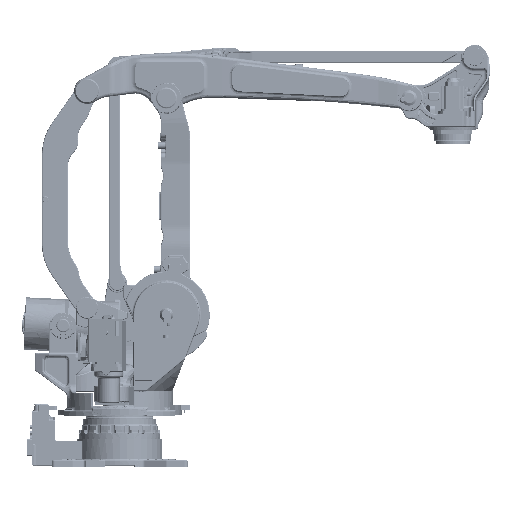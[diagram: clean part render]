
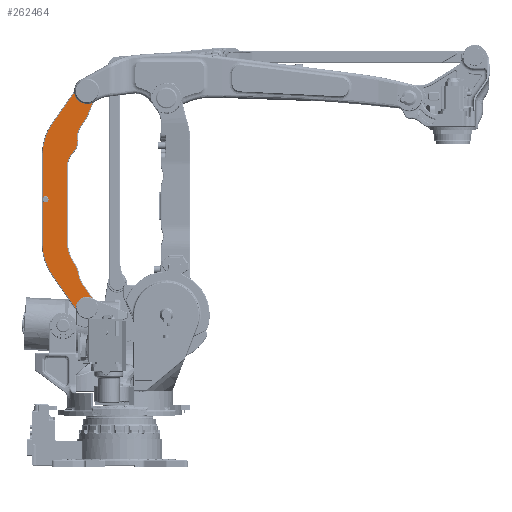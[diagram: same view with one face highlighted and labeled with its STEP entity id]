
A CAD part, front view. The second image highlights one B-rep face of the part: STEP entity #262464.
In plain terms, the highlighted planar face has unit normal (0, -1, 0).
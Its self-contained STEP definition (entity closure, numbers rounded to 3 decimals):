
#259900=CARTESIAN_POINT('',(-138.25,-113.5,1805.637));
#259901=DIRECTION('',(0.,-1.,0.));
#259902=DIRECTION('',(-0.819,0.,0.574));
#259903=AXIS2_PLACEMENT_3D('',#259900,#259901,#259902);
#259908=DIRECTION('',(-0.574,0.,-0.819));
#259909=VECTOR('',#259908,237.139);
#259910=CARTESIAN_POINT('',(-252.074,-113.5,2174.831));
#259911=LINE('',#259910,#259909);
#259915=CARTESIAN_POINT('',(-188.25,-113.5,2170.092));
#259916=DIRECTION('',(0.,1.,0.));
#259917=DIRECTION('',(0.599,0.,-0.801));
#259918=AXIS2_PLACEMENT_3D('',#259915,#259916,#259917);
#259923=DIRECTION('',(0.382,0.,0.924));
#259924=VECTOR('',#259923,101.291);
#259925=CARTESIAN_POINT('',(-188.676,-113.5,2025.228));
#259926=LINE('',#259925,#259924);
#259930=CARTESIAN_POINT('',(-276.456,-113.5,2061.554));
#259931=DIRECTION('',(0.,-1.,0.));
#259932=DIRECTION('',(0.819,0.,-0.574));
#259933=AXIS2_PLACEMENT_3D('',#259930,#259931,#259932);
#259938=DIRECTION('',(0.574,0.,0.819));
#259939=VECTOR('',#259938,47.393);
#259940=CARTESIAN_POINT('',(-225.82,-113.5,1968.243));
#259941=LINE('',#259940,#259939);
#259945=CARTESIAN_POINT('',(-139.809,-113.5,1908.017));
#259946=DIRECTION('',(0.,1.,0.));
#259947=DIRECTION('',(-0.992,0.,-0.125));
#259948=AXIS2_PLACEMENT_3D('',#259945,#259946,#259947);
#259953=CARTESIAN_POINT('',(-338.25,-113.5,1883.092));
#259954=DIRECTION('',(0.,-1.,0.));
#259955=DIRECTION('',(1.,0.,0.));
#259956=AXIS2_PLACEMENT_3D('',#259953,#259954,#259955);
#259961=CARTESIAN_POINT('',(-338.25,-113.5,1883.092));
#259962=DIRECTION('',(0.,-1.,0.));
#259963=DIRECTION('',(0.7,0.,-0.714));
#259964=AXIS2_PLACEMENT_3D('',#259961,#259962,#259963);
#259969=CARTESIAN_POINT('',(-198.25,-113.5,1740.263));
#259970=DIRECTION('',(0.,1.,0.));
#259971=DIRECTION('',(-1.,0.,0.));
#259972=AXIS2_PLACEMENT_3D('',#259969,#259970,#259971);
#259977=CARTESIAN_POINT('',(-98.25,-113.5,1297.158));
#259978=DIRECTION('',(0.,1.,0.));
#259979=DIRECTION('',(-0.819,0.,-0.574));
#259980=AXIS2_PLACEMENT_3D('',#259977,#259978,#259979);
#259985=DIRECTION('',(-0.574,0.,0.819));
#259986=VECTOR('',#259985,12.994);
#259987=CARTESIAN_POINT('',(-258.722,-113.5,1168.93));
#259988=LINE('',#259987,#259986);
#259992=CARTESIAN_POINT('',(-336.542,-113.5,1114.441));
#259993=DIRECTION('',(0.,-1.,0.));
#259994=DIRECTION('',(0.974,0.,0.228));
#259995=AXIS2_PLACEMENT_3D('',#259992,#259993,#259994);
#260000=DIRECTION('',(-0.228,0.,0.974));
#260001=VECTOR('',#260000,42.261);
#260002=CARTESIAN_POINT('',(-234.402,-113.5,1094.987));
#260003=LINE('',#260002,#260001);
#260007=CARTESIAN_POINT('',(-132.176,-113.5,1118.961));
#260008=DIRECTION('',(0.,1.,0.));
#260009=DIRECTION('',(-0.819,0.,-0.574));
#260010=AXIS2_PLACEMENT_3D('',#260007,#260008,#260009);
#260015=DIRECTION('',(-0.574,0.,0.819));
#260016=VECTOR('',#260015,98.016);
#260017=CARTESIAN_POINT('',(-161.967,-113.5,978.446));
#260018=LINE('',#260017,#260016);
#260022=CARTESIAN_POINT('',(-188.25,-113.5,920.092));
#260023=DIRECTION('',(0.,1.,0.));
#260024=DIRECTION('',(-0.997,0.,-0.074));
#260025=AXIS2_PLACEMENT_3D('',#260022,#260023,#260024);
#260030=DIRECTION('',(0.574,0.,-0.819));
#260031=VECTOR('',#260030,237.139);
#260032=CARTESIAN_POINT('',(-388.091,-113.5,1109.605));
#260033=LINE('',#260032,#260031);
#260037=CARTESIAN_POINT('',(-138.25,-113.5,1284.546));
#260038=DIRECTION('',(0.,-1.,0.));
#260039=DIRECTION('',(-1.,0.,0.));
#260040=AXIS2_PLACEMENT_3D('',#260037,#260038,#260039);
#260045=CARTESIAN_POINT('',(-428.25,-113.5,1545.092));
#260046=DIRECTION('',(0.,1.,0.));
#260047=DIRECTION('',(1.,0.,0.));
#260048=AXIS2_PLACEMENT_3D('',#260045,#260046,#260047);
#260053=CARTESIAN_POINT('',(-428.25,-113.5,1545.092));
#260054=DIRECTION('',(0.,1.,0.));
#260055=DIRECTION('',(-0.833,0.,0.553));
#260056=AXIS2_PLACEMENT_3D('',#260053,#260054,#260055);
#260061=DIRECTION('',(0.,0.,1.));
#260062=VECTOR('',#260061,250.596);
#260063=CARTESIAN_POINT('',(-443.25,-113.5,1284.546));
#260064=LINE('',#260063,#260062);
#260075=DIRECTION('',(0.,0.,1.));
#260076=VECTOR('',#260075,250.596);
#260077=CARTESIAN_POINT('',(-443.25,-113.5,1555.042));
#260078=LINE('',#260077,#260076);
#260907=DIRECTION('',(0.,0.,-1.));
#260908=VECTOR('',#260907,443.105);
#260909=CARTESIAN_POINT('',(-303.25,-113.5,1740.263));
#260910=LINE('',#260909,#260908);
#261718=CARTESIAN_POINT('',(-443.25,-113.5,1535.142));
#261720=VERTEX_POINT('',#261718);
#261723=CARTESIAN_POINT('',(-443.25,-113.5,1555.042));
#261725=VERTEX_POINT('',#261723);
#261815=CARTESIAN_POINT('',(-443.25,-113.5,1805.637));
#261816=VERTEX_POINT('',#261815);
#261817=CARTESIAN_POINT('',(-388.091,-113.5,1980.578));
#261818=VERTEX_POINT('',#261817);
#261819=CARTESIAN_POINT('',(-188.676,-113.5,2025.228));
#261820=VERTEX_POINT('',#261819);
#261823=CARTESIAN_POINT('',(-149.943,-113.5,2118.821));
#261824=VERTEX_POINT('',#261823);
#261825=CARTESIAN_POINT('',(-198.636,-113.5,2007.065));
#261826=VERTEX_POINT('',#261825);
#261827=CARTESIAN_POINT('',(-225.82,-113.5,1968.243));
#261828=VERTEX_POINT('',#261827);
#261829=CARTESIAN_POINT('',(-243.99,-113.5,1894.931));
#261830=VERTEX_POINT('',#261829);
#261831=CARTESIAN_POINT('',(-271.75,-113.5,1815.248));
#261832=VERTEX_POINT('',#261831);
#261833=CARTESIAN_POINT('',(-243.25,-113.5,1883.092));
#261834=VERTEX_POINT('',#261833);
#261835=CARTESIAN_POINT('',(-303.25,-113.5,1740.263));
#261836=VERTEX_POINT('',#261835);
#261837=CARTESIAN_POINT('',(-303.25,-113.5,1297.158));
#261838=VERTEX_POINT('',#261837);
#261839=CARTESIAN_POINT('',(-266.176,-113.5,1179.575));
#261840=VERTEX_POINT('',#261839);
#261841=CARTESIAN_POINT('',(-258.722,-113.5,1168.93));
#261842=VERTEX_POINT('',#261841);
#261843=CARTESIAN_POINT('',(-244.051,-113.5,1136.132));
#261844=VERTEX_POINT('',#261843);
#261845=CARTESIAN_POINT('',(-234.402,-113.5,1094.987));
#261846=VERTEX_POINT('',#261845);
#261847=CARTESIAN_POINT('',(-218.187,-113.5,1058.736));
#261848=VERTEX_POINT('',#261847);
#261850=CARTESIAN_POINT('',(-161.967,-113.5,978.446));
#261852=VERTEX_POINT('',#261850);
#261853=CARTESIAN_POINT('',(-252.074,-113.5,915.353));
#261855=VERTEX_POINT('',#261853);
#261857=CARTESIAN_POINT('',(-388.091,-113.5,1109.605));
#261858=VERTEX_POINT('',#261857);
#261859=CARTESIAN_POINT('',(-443.25,-113.5,1284.546));
#261860=VERTEX_POINT('',#261859);
#261861=CARTESIAN_POINT('',(-410.25,-113.5,1545.092));
#261862=VERTEX_POINT('',#261861);
#261863=CARTESIAN_POINT('',(-252.074,-113.5,2174.831));
#261864=VERTEX_POINT('',#261863);
#262410=CARTESIAN_POINT('',(-188.25,-113.5,920.092));
#262411=DIRECTION('',(0.,1.,0.));
#262412=DIRECTION('',(-1.,0.,0.));
#262413=AXIS2_PLACEMENT_3D('',#262410,#262411,#262412);
#262414=PLANE('',#262413);
#262416=ORIENTED_EDGE('',*,*,#262415,.T.);
#262418=ORIENTED_EDGE('',*,*,#262417,.F.);
#262420=ORIENTED_EDGE('',*,*,#262419,.F.);
#262422=ORIENTED_EDGE('',*,*,#262421,.F.);
#262424=ORIENTED_EDGE('',*,*,#262423,.F.);
#262426=ORIENTED_EDGE('',*,*,#262425,.F.);
#262428=ORIENTED_EDGE('',*,*,#262427,.F.);
#262430=ORIENTED_EDGE('',*,*,#262429,.F.);
#262432=ORIENTED_EDGE('',*,*,#262431,.F.);
#262434=ORIENTED_EDGE('',*,*,#262433,.F.);
#262436=ORIENTED_EDGE('',*,*,#262435,.F.);
#262438=ORIENTED_EDGE('',*,*,#262437,.T.);
#262440=ORIENTED_EDGE('',*,*,#262439,.F.);
#262442=ORIENTED_EDGE('',*,*,#262441,.F.);
#262444=ORIENTED_EDGE('',*,*,#262443,.F.);
#262446=ORIENTED_EDGE('',*,*,#262445,.F.);
#262448=ORIENTED_EDGE('',*,*,#262447,.F.);
#262450=ORIENTED_EDGE('',*,*,#262449,.F.);
#262451=ORIENTED_EDGE('',*,*,#262395,.F.);
#262453=ORIENTED_EDGE('',*,*,#262452,.F.);
#262455=ORIENTED_EDGE('',*,*,#262454,.F.);
#262457=ORIENTED_EDGE('',*,*,#262456,.T.);
#262459=ORIENTED_EDGE('',*,*,#262458,.F.);
#262461=ORIENTED_EDGE('',*,*,#262460,.F.);
#262462=EDGE_LOOP('',(#262416,#262418,#262420,#262422,#262424,#262426,#262428,
#262430,#262432,#262434,#262436,#262438,#262440,#262442,#262444,#262446,#262448,
#262450,#262451,#262453,#262455,#262457,#262459,#262461));
#262463=FACE_OUTER_BOUND('',#262462,.F.);
#262464=ADVANCED_FACE('',(#262463),#262414,.F.);
#259904=CIRCLE('',#259903,305.);
#259919=CIRCLE('',#259918,64.);
#259934=CIRCLE('',#259933,95.);
#259949=CIRCLE('',#259948,105.);
#259957=CIRCLE('',#259956,95.);
#259965=CIRCLE('',#259964,95.);
#259973=CIRCLE('',#259972,105.);
#259981=CIRCLE('',#259980,205.);
#259996=CIRCLE('',#259995,95.);
#260011=CIRCLE('',#260010,105.);
#260026=CIRCLE('',#260025,64.);
#260041=CIRCLE('',#260040,305.);
#260049=CIRCLE('',#260048,18.);
#260057=CIRCLE('',#260056,18.);
#262395=EDGE_CURVE('',#261855,#261852,#260026,.T.);
#262415=EDGE_CURVE('',#261725,#261816,#260078,.T.);
#262417=EDGE_CURVE('',#261818,#261816,#259904,.T.);
#262419=EDGE_CURVE('',#261864,#261818,#259911,.T.);
#262421=EDGE_CURVE('',#261824,#261864,#259919,.T.);
#262423=EDGE_CURVE('',#261820,#261824,#259926,.T.);
#262425=EDGE_CURVE('',#261826,#261820,#259934,.T.);
#262427=EDGE_CURVE('',#261828,#261826,#259941,.T.);
#262429=EDGE_CURVE('',#261830,#261828,#259949,.T.);
#262431=EDGE_CURVE('',#261834,#261830,#259957,.T.);
#262433=EDGE_CURVE('',#261832,#261834,#259965,.T.);
#262435=EDGE_CURVE('',#261836,#261832,#259973,.T.);
#262437=EDGE_CURVE('',#261836,#261838,#260910,.T.);
#262439=EDGE_CURVE('',#261840,#261838,#259981,.T.);
#262441=EDGE_CURVE('',#261842,#261840,#259988,.T.);
#262443=EDGE_CURVE('',#261844,#261842,#259996,.T.);
#262445=EDGE_CURVE('',#261846,#261844,#260003,.T.);
#262447=EDGE_CURVE('',#261848,#261846,#260011,.T.);
#262449=EDGE_CURVE('',#261852,#261848,#260018,.T.);
#262452=EDGE_CURVE('',#261858,#261855,#260033,.T.);
#262454=EDGE_CURVE('',#261860,#261858,#260041,.T.);
#262456=EDGE_CURVE('',#261860,#261720,#260064,.T.);
#262458=EDGE_CURVE('',#261862,#261720,#260049,.T.);
#262460=EDGE_CURVE('',#261725,#261862,#260057,.T.);
